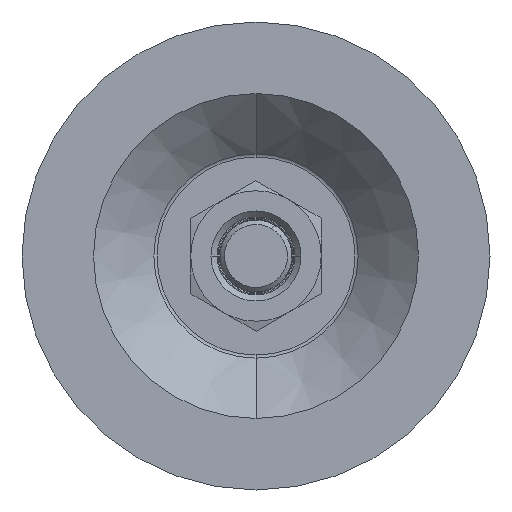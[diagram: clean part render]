
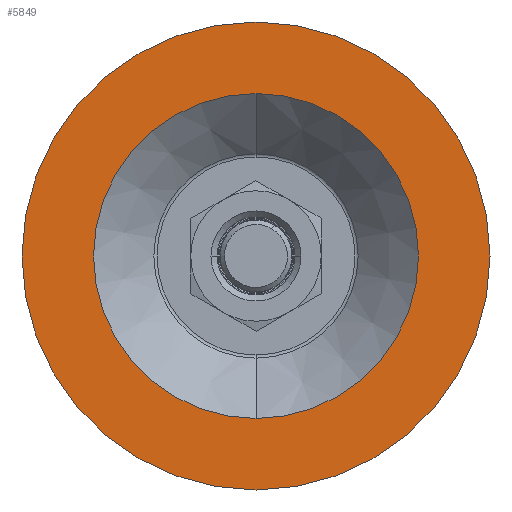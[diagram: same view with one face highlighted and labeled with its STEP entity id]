
A CAD part, front view. The second image highlights one B-rep face of the part: STEP entity #5849.
In plain terms, the highlighted planar face has unit normal (0, -1, 0).
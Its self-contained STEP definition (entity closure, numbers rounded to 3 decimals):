
#486 = EDGE_CURVE ( 'NONE', #4327, #8101, #4778, .T. ) ;
#769 = FACE_BOUND ( 'NONE', #959, .T. ) ;
#959 = EDGE_LOOP ( 'NONE', ( #968, #4346 ) ) ;
#968 = ORIENTED_EDGE ( 'NONE', *, *, #8358, .F. ) ;
#1027 = DIRECTION ( 'NONE',  ( 0., -1., 0. ) ) ;
#1243 = DIRECTION ( 'NONE',  ( 0., 0., -1. ) ) ;
#1463 = ORIENTED_EDGE ( 'NONE', *, *, #2534, .T. ) ;
#1714 = DIRECTION ( 'NONE',  ( 0., 0., -1. ) ) ;
#2534 = EDGE_CURVE ( 'NONE', #8892, #7859, #7044, .T. ) ;
#2655 = AXIS2_PLACEMENT_3D ( 'NONE', #8989, #1027, #1714 ) ;
#2664 = FACE_OUTER_BOUND ( 'NONE', #5389, .T. ) ;
#2699 = CARTESIAN_POINT ( 'NONE',  ( 0., -2.6, -52. ) ) ;
#2884 = DIRECTION ( 'NONE',  ( 0., 0., -1. ) ) ;
#2946 = CIRCLE ( 'NONE', #2655, 36.1 ) ;
#3001 = CARTESIAN_POINT ( 'NONE',  ( 0., -2.6, 36.1 ) ) ;
#3240 = EDGE_CURVE ( 'NONE', #7859, #8892, #4063, .T. ) ;
#3674 = CARTESIAN_POINT ( 'NONE',  ( 0., -2.6, -36.1 ) ) ;
#4063 = CIRCLE ( 'NONE', #8277, 52. ) ;
#4327 = VERTEX_POINT ( 'NONE', #3001 ) ;
#4346 = ORIENTED_EDGE ( 'NONE', *, *, #486, .F. ) ;
#4347 = DIRECTION ( 'NONE',  ( 0., -1., 0. ) ) ;
#4465 = DIRECTION ( 'NONE',  ( 0., -1., 0. ) ) ;
#4486 = DIRECTION ( 'NONE',  ( 0., 0., -1. ) ) ;
#4778 = CIRCLE ( 'NONE', #7886, 36.1 ) ;
#5389 = EDGE_LOOP ( 'NONE', ( #5829, #1463 ) ) ;
#5594 = DIRECTION ( 'NONE',  ( 0., -1., 0. ) ) ;
#5738 = CARTESIAN_POINT ( 'NONE',  ( 0., -2.6, 0. ) ) ;
#5829 = ORIENTED_EDGE ( 'NONE', *, *, #3240, .T. ) ;
#5849 = ADVANCED_FACE ( 'NONE', ( #2664, #769 ), #6752, .T. ) ;
#6361 = AXIS2_PLACEMENT_3D ( 'NONE', #8697, #4347, #4486 ) ;
#6752 = PLANE ( 'NONE',  #6361 ) ;
#7044 = CIRCLE ( 'NONE', #8753, 52. ) ;
#7047 = CARTESIAN_POINT ( 'NONE',  ( 0., -2.6, 0. ) ) ;
#7220 = DIRECTION ( 'NONE',  ( 0., 0., -1. ) ) ;
#7859 = VERTEX_POINT ( 'NONE', #2699 ) ;
#7886 = AXIS2_PLACEMENT_3D ( 'NONE', #7047, #5594, #1243 ) ;
#8008 = CARTESIAN_POINT ( 'NONE',  ( 0., -2.6, 0. ) ) ;
#8101 = VERTEX_POINT ( 'NONE', #3674 ) ;
#8277 = AXIS2_PLACEMENT_3D ( 'NONE', #8008, #4465, #2884 ) ;
#8358 = EDGE_CURVE ( 'NONE', #8101, #4327, #2946, .T. ) ;
#8697 = CARTESIAN_POINT ( 'NONE',  ( 0., -2.6, -52. ) ) ;
#8753 = AXIS2_PLACEMENT_3D ( 'NONE', #5738, #9294, #7220 ) ;
#8809 = CARTESIAN_POINT ( 'NONE',  ( 0., -2.6, 52. ) ) ;
#8892 = VERTEX_POINT ( 'NONE', #8809 ) ;
#8989 = CARTESIAN_POINT ( 'NONE',  ( 0., -2.6, 0. ) ) ;
#9294 = DIRECTION ( 'NONE',  ( 0., -1., 0. ) ) ;
